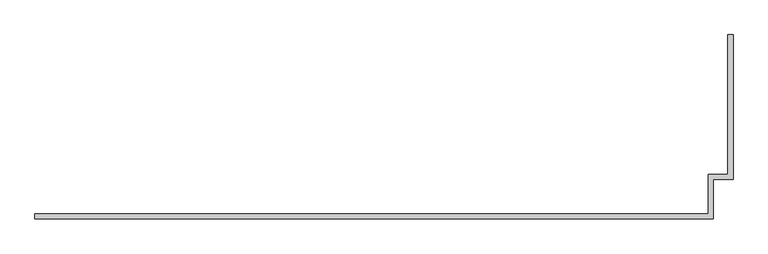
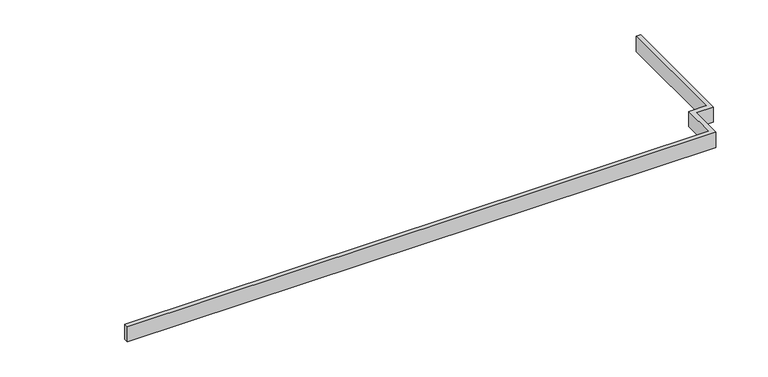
"""IFC4 building model written with IfcOpenShell, lengths in millimetres: proxy geometry, Modelos genéricos 17 : Modelos genéricos 40."""

from ifc_helpers import new_model, si_unit, frame, origin, place, context, project, spatial, polyline, outline, extrude, source, transform, mapped, element, save


def generic_models_32c89611(model_context):
    return source(origin(), model_context, "Body", "SweptSolid", [
        extrude(outline(polyline([(-21877.2739616, -8514.5871375), (-21877.2739616, -8494.5871375), (-19322.2739616, -8494.5871375), (-19322.2739616, -8344.5871375), (-19247.2739616, -8344.5871375), (-19247.2739616, -7814.5871375), (-19227.2739616, -7814.5871375), (-19227.2739616, -8364.5871375), (-19302.2739616, -8364.5871375), (-19302.2739616, -8514.5871375), (-21877.2739616, -8514.5871375)])), frame((0.0, 0.0, 900.0), z_axis=(0.0, 0.0, 1.0), x_axis=(1.0, 0.0, 0.0)), (0.0, 0.0, 1.0), 70.0),
    ])


if __name__ == "__main__":
    model = new_model("IFC4")
    model_context = context("Model", 3, world=origin())
    ifc_project = project(units=[si_unit("LENGTHUNIT", "METRE", prefix="MILLI")], contexts=[model_context])
    site = spatial("IfcSite", under=ifc_project)
    building = spatial("IfcBuilding", under=site)
    placement = place(None, origin())
    generic_models_shape = generic_models_32c89611(model_context)
    element("IfcBuildingElementProxy", 1, Name="Modelos genéricos 17 : Modelos genéricos 40", ObjectType="Modelos genéricos 17 : Modelos genéricos 40", at=placement, inside=building, context=model_context, shape_type="MappedRepresentation", body=[
        mapped(generic_models_shape, transform((0.0, 0.0, 0.0), x_axis=(1.0, 0.0, 0.0), y_axis=(0.0, 1.0, 0.0), z_axis=(0.0, 0.0, 1.0))),
    ])
    save(model, "model.ifc")
